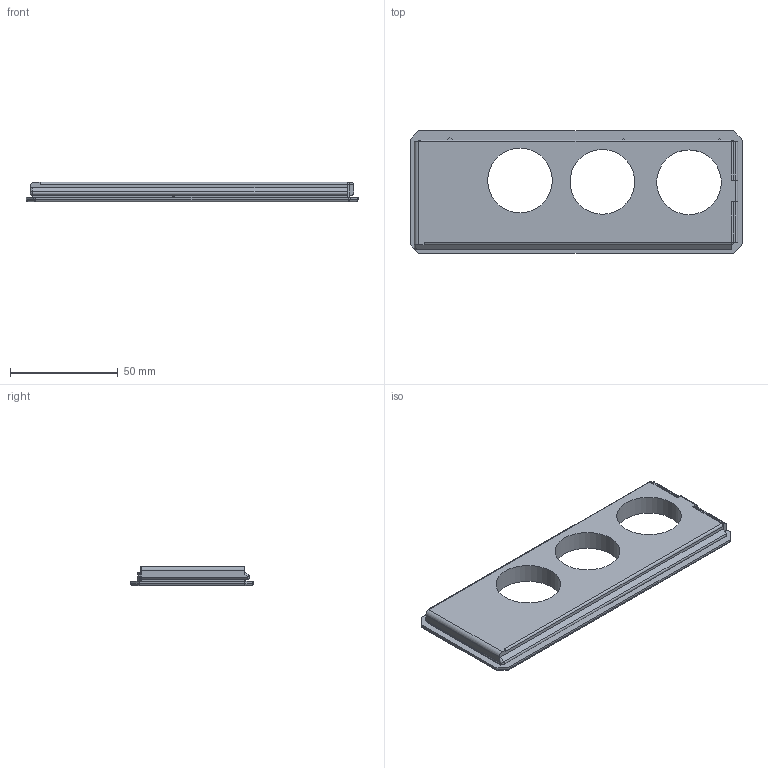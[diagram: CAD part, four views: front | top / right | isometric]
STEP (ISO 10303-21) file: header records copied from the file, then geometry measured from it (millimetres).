
FILE_DESCRIPTION(/* description */ (''),/* implementation_level */ '2;1');
FILE_NAME(/* name */ 'hori_einsatz.step',/* time_stamp */ '2026-01-29T01:48:07+01:00',/* author */ (''),/* organization */ (''),/* preprocessor_version */ 'ST-DEVELOPER v20.1',/* originating_system */ 'Autodesk Translation Framework v14.21.0.0',/* authorisation */ '');
FILE_SCHEMA (('AUTOMOTIVE_DESIGN { 1 0 10303 214 3 1 1 }'));
Length unit declared in the file: millimetre
Products named in the file (1): 2025-11-18-11-09-15-142
Bounding box: 154 x 57 x 9 mm (x, y, z)
Volume: 49712 mm3; surface area: 19747.5 mm2
Topology: 1 solids, 1 shells, 87 faces, 220 edges, 136 vertices
Faces by surface type: plane 49, cylinder 30, sphere 8
Full cylindrical faces by diameter (mm): 30 x3
Entity records: 2622 total; most frequent: DIRECTION 455, CARTESIAN_POINT 444, ORIENTED_EDGE 440, EDGE_CURVE 220, LINE 161, VECTOR 161, AXIS2_PLACEMENT_3D 147, VERTEX_POINT 136
